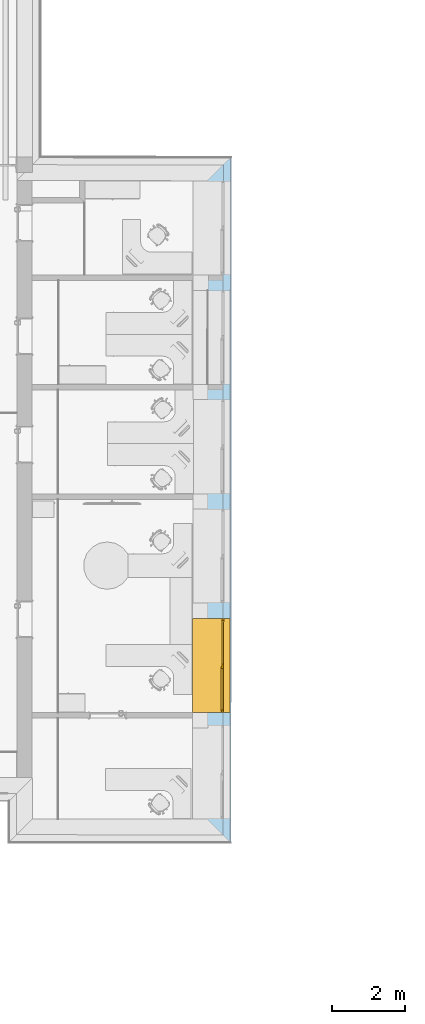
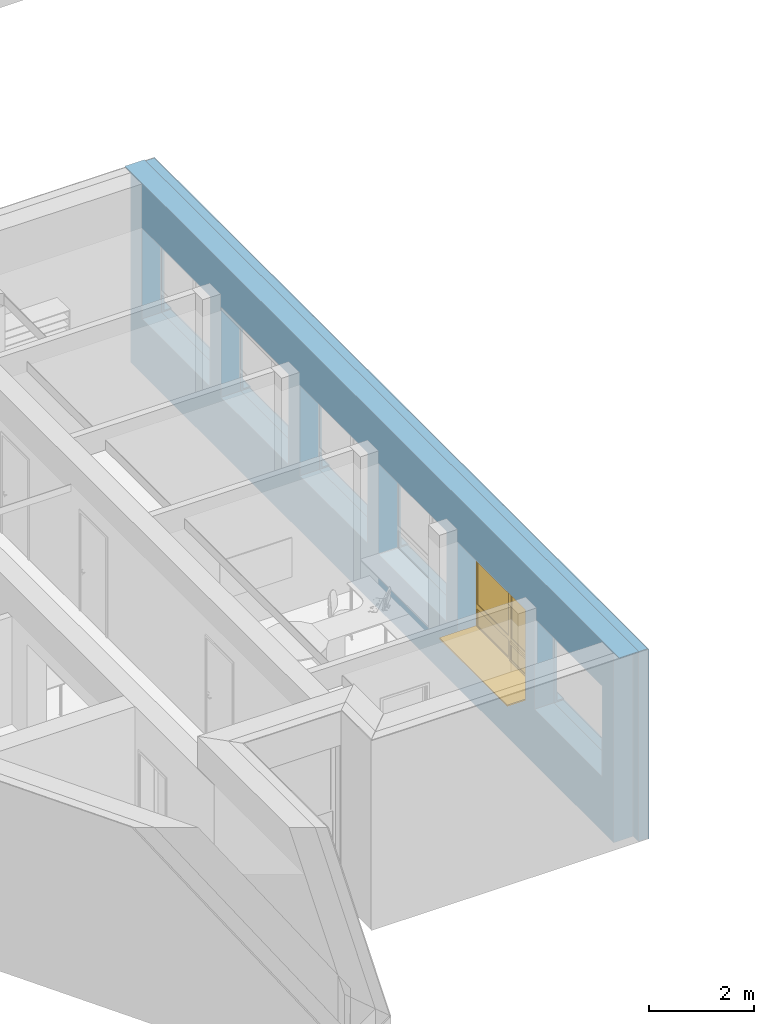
# One storey, part 82 of 194: 1 window, 6 openings, 1 element without a shape of its own, plus 3 elements that do not belong to this part.
"""IFC2X3 building model written with IfcOpenShell, lengths in millimetres."""

from ifc_helpers import new_model, entity, si_unit, converted_unit, derived_unit, money_unit, direction, frame, origin_with_axes, origin_2d_with_axis, place, context, subcontext, project, spatial, polyline, rectangle, outline, extrude, boolean, open_shell, faceted_brep, surface_model, material, type_object, element, fill, aggregate, save


model = new_model("IFC2X3")

# Units and contexts
model_context = context("Model", 3, precision=1e-05, world=origin_with_axes(), true_north=direction((0.0, 1.0)))
body_context = subcontext(model_context, "Body", "Model", "MODEL_VIEW")
ifc_project = project(units=[si_unit("LENGTHUNIT", "METRE", prefix="MILLI"), si_unit("AREAUNIT", "SQUARE_METRE"), si_unit("VOLUMEUNIT", "CUBIC_METRE"), converted_unit("PLANEANGLEUNIT", "DEGREE", entity("IfcPlaneAngleMeasure", 0.0174532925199), si_unit("PLANEANGLEUNIT", "RADIAN"), dimensions=[0, 0, 0, 0, 0, 0, 0]), si_unit("SOLIDANGLEUNIT", "STERADIAN"), money_unit("EUR"), converted_unit("TIMEUNIT", "Year", entity("IfcTimeMeasure", 31556926.0), si_unit("TIMEUNIT", "SECOND"), dimensions=[0, 0, 1, 0, 0, 0, 0]), si_unit("MASSUNIT", "GRAM", prefix="KILO"), si_unit("THERMODYNAMICTEMPERATUREUNIT", "DEGREE_CELSIUS"), si_unit("LUMINOUSINTENSITYUNIT", "LUMEN"), si_unit("ENERGYUNIT", "JOULE", prefix="MEGA"), derived_unit("THERMALCONDUCTANCEUNIT", [(si_unit("POWERUNIT", "WATT"), 1), (si_unit("LENGTHUNIT", "METRE"), -1), (si_unit("THERMODYNAMICTEMPERATUREUNIT", "KELVIN"), -1)]), derived_unit("SPECIFICHEATCAPACITYUNIT", [(si_unit("ENERGYUNIT", "JOULE"), 1), (si_unit("MASSUNIT", "GRAM", prefix="KILO"), -1), (si_unit("THERMODYNAMICTEMPERATUREUNIT", "KELVIN"), -1)]), derived_unit("MASSDENSITYUNIT", [(si_unit("MASSUNIT", "GRAM", prefix="KILO"), 1), (si_unit("VOLUMEUNIT", "CUBIC_METRE"), -1)])], contexts=[model_context])

# Site, building, storey
site_placement = place(None, origin_with_axes())
site = spatial("IfcSite", under=ifc_project, at=site_placement, Name="Site", CompositionType="ELEMENT")
building_placement = place(site_placement, origin_with_axes())
building = spatial("IfcBuilding", under=site, at=building_placement, Name="Building", CompositionType="ELEMENT")
storey_placement = place(building_placement, frame((0.0, 0.0, 3000.0), z_axis=(0.0, 0.0, 1.0), x_axis=(1.0, 0.0, 0.0)))
storey = spatial("IfcBuildingStorey", under=building, at=storey_placement, Name="2 KORRUS", CompositionType="ELEMENT", Elevation=3000.0)

# Window
window_style = type_object("IfcWindowStyle", Name="A2   2\xa0580×2\xa0100", ConstructionType="NOTDEFINED", OperationType="USERDEFINED", ParameterTakesPrecedence=False, Sizeable=False)
wall_placement = place(storey_placement, frame((45388.6906963, 4389.96789684, -420.0), z_axis=(0.0, 0.0, 1.0), x_axis=(0.000555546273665, 0.999999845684, 0.0)))
opening_6_placement = place(wall_placement, frame((4639.9161327, 0.0, 1270.0), z_axis=(0.0, 0.0, 1.0), x_axis=(1.0, 0.0, 0.0)))
window_placement = place(opening_6_placement, frame((-1290.0, 0.0, 0.0), z_axis=(0.0, 0.0, 1.0), x_axis=(1.0, 0.0, 0.0)))
window = element("IfcWindow", 1, at=window_placement, inside=storey, type_object=window_style, Name="välisaken * Double Window 22", OverallHeight=2100.0, OverallWidth=2580.0, context=body_context, shape_type="SurfaceModel", body=[
    faceted_brep([(9.09494701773e-10, -20.0000000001, 30.0), (9.09494701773e-10, -20.0000000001, 5.0), (9.09494701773e-10, -220.0, 5.0), (9.09494701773e-10, -220.0, 19.5184441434), (2580.0, -20.0, 30.0), (2580.0, -20.0, 5.0), (2580.0, -220.0, 5.0), (2580.0, -220.0, 19.5184441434)], [[[0, 1, 2, 3]], [[4, 5, 1, 0]], [[2, 1, 5, 6]], [[3, 2, 6, 7]], [[4, 0, 3, 7]], [[7, 6, 5, 4]]]),
    faceted_brep([(9.09494701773e-10, -20.0000000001, 0.0), (9.09494701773e-10, -220.0, 0.0), (9.09494701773e-10, -220.0, 5.0), (9.09494701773e-10, -20.0000000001, 5.0), (2580.0, -20.0, 0.0), (2580.0, -220.0, 0.0), (2580.0, -220.0, 5.0), (2580.0, -20.0, 5.0)], [[[0, 1, 2, 3]], [[0, 4, 5, 1]], [[1, 5, 6, 2]], [[3, 2, 6, 7]], [[4, 0, 3, 7]], [[5, 4, 7, 6]]]),
    faceted_brep([(2580.0, 29.9999999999, 0.0), (2580.0, 430.0, 0.0), (2580.0, 430.0, 30.0), (2580.0, 29.9999999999, 30.0), (0.0, 30.0, 0.0), (0.0, 430.0, 0.0), (9.09494701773e-10, 830.0, 0.0), (2580.0, 830.0, 0.0), (2580.0, 830.0, 30.0), (9.09494701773e-10, 830.0, 30.0), (0.0, 430.0, 30.0), (0.0, 30.0, 30.0)], [[[0, 1, 2, 3]], [[0, 4, 5, 6, 7, 1]], [[1, 7, 8, 2]], [[3, 2, 8, 9, 10, 11]], [[4, 0, 3, 11]], [[5, 4, 11, 10]], [[6, 5, 10, 9]], [[7, 6, 9, 8]]]),
    faceted_brep([(25.0000000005, 30.0, 50.0), (0.0, 30.0, 50.0), (0.0, 30.0, 2050.0), (49.9999999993, 30.0, 2050.0), (49.9999999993, 30.0, 550.0), (49.9999999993, 30.0, 475.0), (25.0000000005, 30.0, 475.0), (25.0000000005, 4.99999999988, 50.0), (50.0000000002, 5.0, 50.0), (50.0000000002, -20.0000000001, 50.0), (9.09494701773e-10, -20.0000000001, 50.0), (9.09494701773e-10, -20.0000000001, 2050.0), (50.0000000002, -20.0000000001, 2050.0), (50.0000000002, -20.0000000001, 550.0), (50.0000000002, 5.0, 475.0), (50.0000000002, -20.0000000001, 450.0), (50.0000000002, 5.0, 450.0), (25.0000000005, 4.99999999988, 475.0)], [[[0, 1, 2, 3, 4, 5, 6]], [[7, 8, 9, 10, 1, 0]], [[2, 1, 10, 11]], [[3, 2, 11, 12]], [[4, 3, 12, 13]], [[14, 5, 4, 13, 15, 16]], [[14, 17, 6, 5]], [[6, 17, 7, 0]], [[16, 8, 7, 17, 14]], [[16, 15, 9, 8]], [[13, 12, 11, 10, 9, 15]]]),
    faceted_brep([(1265.0, 30.0000000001, 475.0), (1240.0, 30.0, 475.0), (1240.0, 30.0, 550.0), (1240.0, 30.0, 2050.0), (1340.0, 30.0, 2050.0), (1340.0, 30.0, 550.0), (1340.0, 30.0, 450.0), (1340.0, 30.0, 50.0), (1265.0, 30.0000000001, 50.0), (1265.0, 5.0, 475.0), (1240.0, 4.99999999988, 475.0), (1240.0, 4.99999999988, 450.0), (1240.0, -20.0000000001, 450.0), (1240.0, -20.0000000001, 550.0), (1240.0, -20.0000000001, 2050.0), (1340.0, -20.0000000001, 2050.0), (1340.0, -20.0000000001, 550.0), (1340.0, -20.0000000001, 450.0), (1340.0, -20.0000000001, 50.0), (1265.0, 5.0, 50.0), (1240.0, -20.0000000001, 50.0), (1240.0, 4.99999999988, 50.0)], [[[0, 1, 2, 3, 4, 5, 6, 7, 8]], [[0, 9, 10, 1]], [[10, 11, 12, 13, 2, 1]], [[3, 2, 13, 14]], [[4, 3, 14, 15]], [[5, 4, 15, 16]], [[6, 5, 16, 17]], [[7, 6, 17, 18]], [[19, 8, 7, 18, 20, 21]], [[8, 19, 9, 0]], [[21, 11, 10, 9, 19]], [[21, 20, 12, 11]], [[12, 20, 18, 17, 16, 15, 14, 13]]]),
    faceted_brep([(49.9999999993, 30.0, 475.0), (49.9999999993, 30.0, 550.0), (1240.0, 30.0, 550.0), (1240.0, 30.0, 475.0), (50.0000000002, 5.0, 475.0), (50.0000000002, 5.0, 450.0), (50.0000000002, -20.0000000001, 450.0), (50.0000000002, -20.0000000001, 550.0), (1240.0, -20.0000000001, 550.0), (1240.0, 4.99999999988, 475.0), (1240.0, -20.0000000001, 450.0), (1240.0, 4.99999999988, 450.0)], [[[0, 1, 2, 3]], [[4, 5, 6, 7, 1, 0]], [[2, 1, 7, 8]], [[9, 3, 2, 8, 10, 11]], [[9, 4, 0, 3]], [[11, 5, 4, 9]], [[11, 10, 6, 5]], [[8, 7, 6, 10]]]),
    faceted_brep([(1240.0, 4.99999999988, 50.0), (1240.0, -20.0000000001, 50.0), (1340.0, -20.0000000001, 50.0), (1340.0, 30.0, 50.0), (1265.0, 30.0000000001, 50.0), (1265.0, 5.0, 50.0), (50.0000000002, 5.0, 50.0), (50.0000000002, -20.0000000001, 50.0), (9.09494701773e-10, -20.0000000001, 50.0), (9.09494701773e-10, -20.0000000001, 0.0), (2580.0, -20.0, 0.0), (2580.0, -20.0, 50.0), (2530.0, -20.0000000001, 50.0), (2530.0, 29.9999999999, 50.0), (25.0000000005, 30.0, 25.0), (1265.0, 30.0000000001, 25.0), (2580.0, 29.9999999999, 50.0), (2580.0, 29.9999999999, 0.0), (0.0, 30.0, 0.0), (0.0, 30.0, 50.0), (25.0000000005, 30.0, 50.0), (1265.0, 5.0, 25.0), (25.0000000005, 4.99999999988, 25.0), (25.0000000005, 4.99999999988, 50.0)], [[[0, 1, 2, 3, 4, 5]], [[6, 7, 1, 0]], [[8, 9, 10, 11, 12, 2, 1, 7]], [[13, 3, 2, 12]], [[14, 15, 4, 3, 13, 16, 17, 18, 19, 20]], [[15, 21, 5, 4]], [[5, 21, 22, 23, 6, 0]], [[23, 20, 19, 8, 7, 6]], [[19, 18, 9, 8]], [[18, 17, 10, 9]], [[17, 16, 11, 10]], [[16, 13, 12, 11]], [[14, 22, 21, 15]], [[23, 22, 14, 20]]]),
    faceted_brep([(2530.0, -20.0000000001, 50.0), (2530.0, 29.9999999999, 50.0), (2580.0, 29.9999999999, 50.0), (2580.0, -20.0, 50.0), (2530.0, -20.0000000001, 450.0), (2530.0, 29.9999999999, 450.0), (2530.0, 29.9999999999, 550.0), (2530.0, 29.9999999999, 2050.0), (2580.0, 29.9999999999, 2050.0), (2580.0, -20.0, 2050.0), (2530.0, -20.0000000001, 2050.0), (2530.0, -20.0000000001, 550.0)], [[[0, 1, 2, 3]], [[4, 5, 1, 0]], [[1, 5, 6, 7, 8, 2]], [[3, 2, 8, 9]], [[0, 3, 9, 10, 11, 4]], [[11, 6, 5, 4]], [[10, 7, 6, 11]], [[9, 8, 7, 10]]]),
    faceted_brep([(1340.0, -20.0000000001, 550.0), (1340.0, 30.0, 550.0), (1340.0, 30.0, 450.0), (1340.0, -20.0000000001, 450.0), (2530.0, -20.0000000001, 550.0), (2530.0, 29.9999999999, 550.0), (2530.0, 29.9999999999, 450.0), (2530.0, -20.0000000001, 450.0)], [[[0, 1, 2, 3]], [[4, 5, 1, 0]], [[1, 5, 6, 2]], [[3, 2, 6, 7]], [[0, 3, 7, 4]], [[7, 6, 5, 4]]]),
    faceted_brep([(1240.0, -20.0000000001, 2050.0), (1240.0, 30.0, 2050.0), (1340.0, 30.0, 2050.0), (1340.0, -20.0000000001, 2050.0), (50.0000000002, -20.0000000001, 2050.0), (49.9999999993, 30.0, 2050.0), (0.0, 30.0, 2050.0), (0.0, 30.0, 2100.0), (2580.0, 29.9999999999, 2100.0), (2580.0, 29.9999999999, 2050.0), (2530.0, 29.9999999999, 2050.0), (2530.0, -20.0000000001, 2050.0), (2580.0, -20.0, 2050.0), (2580.0, -20.0, 2100.0), (9.09494701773e-10, -20.0000000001, 2100.0), (9.09494701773e-10, -20.0000000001, 2050.0)], [[[0, 1, 2, 3]], [[4, 5, 1, 0]], [[1, 5, 6, 7, 8, 9, 10, 2]], [[3, 2, 10, 11]], [[0, 3, 11, 12, 13, 14, 15, 4]], [[15, 6, 5, 4]], [[14, 7, 6, 15]], [[13, 8, 7, 14]], [[12, 9, 8, 13]], [[11, 10, 9, 12]]]),
    surface_model("IfcShellBasedSurfaceModel", [(50.0000000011, -5.0, 550.0), (1240.0, -5.0, 550.0), (1240.0, -5.0, 2050.0), (50.0000000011, -5.0, 2050.0)], [open_shell([[[0, 1, 2, 3]]])]),
    surface_model("IfcShellBasedSurfaceModel", [(50.0000000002, 15.0, 550.0), (50.0000000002, 15.0, 2050.0), (1240.0, 15.0, 2050.0), (1240.0, 15.0, 550.0)], [open_shell([[[0, 1, 2, 3]]])]),
    surface_model("IfcShellBasedSurfaceModel", [(1340.0, -5.00000000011, 550.0), (2530.0, -5.0, 550.0), (2530.0, -5.0, 2050.0), (1340.0, -5.00000000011, 2050.0)], [open_shell([[[0, 1, 2, 3]]])]),
    surface_model("IfcShellBasedSurfaceModel", [(1340.0, 14.9999999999, 550.0), (1340.0, 14.9999999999, 2050.0), (2530.0, 15.0, 2050.0), (2530.0, 15.0, 550.0)], [open_shell([[[0, 1, 2, 3]]])]),
    faceted_brep([(74.9999999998, 5.0, 425.0), (74.9999999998, 54.9999999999, 425.0), (25.0000000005, 54.9999999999, 425.0), (25.0000000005, 4.99999999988, 425.0), (74.9999999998, 5.0, 75.0), (74.9999999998, 54.9999999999, 75.0), (25.0000000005, 54.9999999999, 75.0), (25.0000000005, 4.99999999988, 75.0)], [[[0, 1, 2, 3]], [[4, 5, 1, 0]], [[1, 5, 6, 2]], [[3, 2, 6, 7]], [[0, 3, 7, 4]], [[7, 6, 5, 4]]]),
    faceted_brep([(1215.0, 4.99999999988, 75.0), (1215.0, 54.9999999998, 75.0), (1265.0, 54.9999999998, 75.0), (1265.0, 5.0, 75.0), (1215.0, 4.99999999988, 425.0), (1215.0, 54.9999999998, 425.0), (1265.0, 54.9999999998, 425.0), (1265.0, 5.0, 425.0)], [[[0, 1, 2, 3]], [[4, 5, 1, 0]], [[1, 5, 6, 2]], [[3, 2, 6, 7]], [[0, 3, 7, 4]], [[7, 6, 5, 4]]]),
    faceted_brep([(1265.0, 5.0, 25.0), (1265.0, 54.9999999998, 25.0), (1265.0, 54.9999999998, 75.0), (1265.0, 5.0, 75.0), (25.0000000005, 4.99999999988, 25.0), (25.0000000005, 54.9999999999, 25.0), (25.0000000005, 54.9999999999, 75.0), (74.9999999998, 54.9999999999, 75.0), (1215.0, 54.9999999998, 75.0), (1215.0, 4.99999999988, 75.0), (74.9999999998, 5.0, 75.0), (25.0000000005, 4.99999999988, 75.0)], [[[0, 1, 2, 3]], [[4, 5, 1, 0]], [[1, 5, 6, 7, 8, 2]], [[3, 2, 8, 9]], [[0, 3, 9, 10, 11, 4]], [[11, 6, 5, 4]], [[10, 7, 6, 11]], [[9, 8, 7, 10]]]),
    faceted_brep([(25.0000000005, 4.99999999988, 475.0), (25.0000000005, 54.9999999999, 475.0), (25.0000000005, 54.9999999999, 425.0), (25.0000000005, 4.99999999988, 425.0), (1265.0, 5.0, 475.0), (1265.0, 54.9999999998, 475.0), (1265.0, 54.9999999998, 425.0), (1215.0, 54.9999999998, 425.0), (74.9999999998, 54.9999999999, 425.0), (74.9999999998, 5.0, 425.0), (1215.0, 4.99999999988, 425.0), (1265.0, 5.0, 425.0)], [[[0, 1, 2, 3]], [[4, 5, 1, 0]], [[1, 5, 6, 7, 8, 2]], [[3, 2, 8, 9]], [[0, 3, 9, 10, 11, 4]], [[11, 6, 5, 4]], [[10, 7, 6, 11]], [[9, 8, 7, 10]]]),
    surface_model("IfcShellBasedSurfaceModel", [(75.0000000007, 20.0, 75.0), (1215.0, 20.0, 75.0), (1215.0, 20.0, 425.0), (75.0000000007, 20.0, 425.0)], [open_shell([[[0, 1, 2, 3]]])]),
    surface_model("IfcShellBasedSurfaceModel", [(75.0000000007, 39.9999999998, 75.0), (75.0000000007, 39.9999999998, 425.0), (1215.0, 40.0, 425.0), (1215.0, 40.0, 75.0)], [open_shell([[[0, 1, 2, 3]]])]),
    surface_model("IfcShellBasedSurfaceModel", [(1340.0, -5.00000000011, 50.0), (2530.0, -5.0, 50.0), (2530.0, -5.0, 450.0), (1340.0, -5.00000000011, 450.0)], [open_shell([[[0, 1, 2, 3]]])]),
    surface_model("IfcShellBasedSurfaceModel", [(1340.0, 14.9999999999, 50.0), (1340.0, 14.9999999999, 450.0), (2530.0, 15.0, 450.0), (2530.0, 15.0, 50.0)], [open_shell([[[0, 1, 2, 3]]])]),
])

# Wall, openings
wall_type = type_object("IfcWallType", Name="VS4", PredefinedType="NOTDEFINED")
wall = element("IfcWall", 2, at=wall_placement, inside=storey, type_object=wall_type, Name="VS4")
opening_1_placement = place(wall_placement, frame((1719.99240846, 0.0, 1270.0), z_axis=(0.0, 0.0, 1.0), x_axis=(1.0, 0.0, 0.0)))
element("IfcOpeningElement", 3, at=opening_1_placement, cuts=wall, Name="välisaken * Double Window 22", context=body_context, shape_type="SweptSolid", body=[
    extrude(rectangle(XDim=2580.0, YDim=2100.0, at=origin_2d_with_axis()), frame((9.09494701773e-10, -20.0, 1050.0), z_axis=(0.0, -1.0, 0.0), x_axis=(1.0, 0.0, 0.0)), (0.0, 0.0, -1.0), 1100.0),
    extrude(rectangle(XDim=2580.0, YDim=2100.0, at=origin_2d_with_axis()), frame((9.09494701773e-10, -20.0000000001, 1050.0), z_axis=(0.0, 1.0, 0.0), x_axis=(1.0, 0.0, 0.0)), (0.0, 0.0, -1.0), 850.0),
])
opening_2_placement = place(wall_placement, frame((7639.96095485, 0.0, 1270.0), z_axis=(0.0, 0.0, 1.0), x_axis=(1.0, 0.0, 0.0)))
element("IfcOpeningElement", 4, at=opening_2_placement, cuts=wall, Name="välisaken * Double Window 22", context=body_context, shape_type="SweptSolid", body=[
    extrude(rectangle(XDim=2580.0, YDim=2100.0, at=origin_2d_with_axis()), frame((9.09494701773e-10, -19.9999999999, 1050.0), z_axis=(0.0, -1.0, 0.0), x_axis=(1.0, 0.0, 0.0)), (0.0, 0.0, -1.0), 1100.0),
    extrude(rectangle(XDim=2580.0, YDim=2100.0, at=origin_2d_with_axis()), frame((9.09494701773e-10, -20.0, 1050.0), z_axis=(0.0, 1.0, 0.0), x_axis=(1.0, 0.0, 0.0)), (0.0, 0.0, -1.0), 850.0),
])
opening_3_placement = place(wall_placement, frame((10639.9002006, -1.13686837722e-10, 1270.0), z_axis=(0.0, 0.0, 1.0), x_axis=(1.0, 0.0, 0.0)))
element("IfcOpeningElement", 5, at=opening_3_placement, cuts=wall, Name="välisaken * Double Window 22", context=body_context, shape_type="SweptSolid", body=[
    extrude(rectangle(XDim=2580.0, YDim=2100.0, at=origin_2d_with_axis()), frame((9.09494701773e-10, -19.9999999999, 1050.0), z_axis=(0.0, -1.0, 0.0), x_axis=(1.0, 0.0, 0.0)), (0.0, 0.0, -1.0), 1100.0),
    extrude(rectangle(XDim=2580.0, YDim=2100.0, at=origin_2d_with_axis()), frame((0.0, -20.0, 1050.0), z_axis=(0.0, 1.0, 0.0), x_axis=(1.0, 0.0, 0.0)), (0.0, 0.0, -1.0), 850.0),
])
opening_4_placement = place(wall_placement, frame((13639.8047206, -1.13686837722e-10, 1270.0), z_axis=(0.0, 0.0, 1.0), x_axis=(1.0, 0.0, 0.0)))
element("IfcOpeningElement", 6, at=opening_4_placement, cuts=wall, Name="välisaken * Double Window 22", context=body_context, shape_type="SweptSolid", body=[
    extrude(rectangle(XDim=2580.0, YDim=2100.0, at=origin_2d_with_axis()), frame((9.09494701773e-10, -19.9999999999, 1050.0), z_axis=(0.0, -1.0, 0.0), x_axis=(1.0, 0.0, 0.0)), (0.0, 0.0, -1.0), 1100.0),
    extrude(rectangle(XDim=2580.0, YDim=2100.0, at=origin_2d_with_axis()), frame((1.81898940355e-09, -20.0, 1050.0), z_axis=(0.0, 1.0, 0.0), x_axis=(1.0, 0.0, 0.0)), (0.0, 0.0, -1.0), 850.0),
])
opening_5_placement = place(wall_placement, frame((16639.9800092, 0.0, 1270.0), z_axis=(0.0, 0.0, 1.0), x_axis=(1.0, 0.0, 0.0)))
element("IfcOpeningElement", 7, at=opening_5_placement, cuts=wall, Name="välisaken * Double Window 22", context=body_context, shape_type="SweptSolid", body=[
    extrude(rectangle(XDim=2580.0, YDim=2100.0, at=origin_2d_with_axis()), frame((0.0, -20.0000000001, 1050.0), z_axis=(0.0, -1.0, 0.0), x_axis=(1.0, 0.0, 0.0)), (0.0, 0.0, -1.0), 1100.0),
    extrude(rectangle(XDim=2580.0, YDim=2100.0, at=origin_2d_with_axis()), frame((0.0, -20.0000000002, 1050.0), z_axis=(0.0, 1.0, 0.0), x_axis=(1.0, 0.0, 0.0)), (0.0, 0.0, -1.0), 850.0),
])
opening_6 = element("IfcOpeningElement", 8, at=opening_6_placement, cuts=wall, Name="välisaken * Double Window 22", context=body_context, shape_type="SweptSolid", body=[
    extrude(rectangle(XDim=2580.0, YDim=2100.0, at=origin_2d_with_axis()), frame((9.09494701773e-10, -20.0, 1050.0), z_axis=(0.0, -1.0, 0.0), x_axis=(1.0, 0.0, 0.0)), (0.0, 0.0, -1.0), 1100.0),
    extrude(rectangle(XDim=2580.0, YDim=2100.0, at=origin_2d_with_axis()), frame((9.09494701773e-10, -20.0000000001, 1050.0), z_axis=(0.0, 1.0, 0.0), x_axis=(1.0, 0.0, 0.0)), (0.0, 0.0, -1.0), 850.0),
])

fill(opening_6, window)

# Building element part
ifc_material_1 = material(Name="Tellis - Konstuktsioon")
building_element_part_1_placement = place(wall_placement, origin_with_axes())
building_element_part_1 = element("IfcBuildingElementPart", 9, at=building_element_part_1_placement, material=ifc_material_1, Name="Tellis - Konstuktsioon", context=body_context, shape_type="CSG", body=[
    boolean("DIFFERENCE", boolean("DIFFERENCE", boolean("DIFFERENCE", boolean("DIFFERENCE", boolean("DIFFERENCE", boolean("DIFFERENCE", extrude(outline(polyline([(-220.007591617, 0.0), (18579.9522338, 0.0), (18579.9522338, 430.0), (-220.007591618, 430.0), (-220.007591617, 0.0)])), origin_with_axes(), (0.0, 0.0, 1.0), 4420.0), faceted_brep([(0.0, 0.0, 4400.0), (-220.000000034, -1.13686837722e-10, 4400.0), (-220.007591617, 0.0, 0.0), (0.0, 1.13686837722e-10, 0.0), (-0.00759158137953, 430.0, 4400.0), (-220.007591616, 430.0, 4400.0), (-220.007591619, 430.0, 0.0), (-0.00759158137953, 430.0, 0.0)], [[[0, 1, 2, 3]], [[1, 0, 4, 5]], [[1, 5, 6, 2]], [[7, 3, 2, 6]], [[0, 3, 7, 4]], [[4, 7, 6, 5]]])), faceted_brep([(18579.9522338, 430.0, 4420.0), (18579.0005259, 0.0, 4420.0), (18579.9522338, 0.0, 4420.0), (18579.0005263, -9.09494701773e-10, 4400.0), (18579.9522348, 429.999999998, 4400.0), (18358.9999871, -2.27373675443e-10, 4400.0), (18358.9999871, -1.13686837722e-10, 0.0), (18579.9522338, 0.0, 0.0), (18579.9522338, 430.0, 0.0), (18359.951695, 430.0, 4400.0), (18359.951695, 430.0, 0.0)], [[[0, 1, 2]], [[3, 1, 0, 4]], [[5, 6, 7, 2, 1, 3]], [[4, 0, 2, 7, 8]], [[5, 3, 4, 9]], [[6, 5, 9, 10]], [[6, 10, 8, 7]], [[9, 4, 8, 10]]])), faceted_brep([(0.111082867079, -200.0, 1300.0), (18196.9295608, -200.0, 1300.0), (18196.9295608, -200.0, 3400.0), (0.111082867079, -200.0, 3400.0), (0.0345998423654, -62.3282756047, 1300.0), (18196.8474617, -52.2191024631, 1300.0), (18196.8474617, -52.2191024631, 3400.0), (0.0345998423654, -62.3282756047, 3400.0)], [[[0, 1, 2, 3]], [[1, 0, 4, 5]], [[2, 1, 5, 6]], [[3, 2, 6, 7]], [[0, 3, 7, 4]], [[5, 4, 7, 6]]])), faceted_brep([(-199.996469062, -200.0, 0.0), (-199.996469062, -200.0, 4400.0), (18558.5578221, -200.0, 4400.0), (18558.5578221, -200.0, 0.0), (18579.9522338, -200.0, 0.0), (18579.9522338, -200.0, 4420.0), (-220.007591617, -200.0, 4420.0), (-220.007591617, -200.0, 0.0), (-200.000000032, 0.0, 0.0), (-200.000000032, -1.13686837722e-10, 4400.0), (18358.9999871, -2.27373675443e-10, 4400.0), (18559.0004769, 0.0, 4400.0), (18559.0004769, 0.0, 0.0), (18579.9522338, 0.0, 0.0), (18579.9522338, 0.0, 4420.0), (-220.007591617, 0.0, 4420.0), (-220.007591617, 0.0, 0.0)], [[[0, 1, 2, 3, 4, 5, 6, 7]], [[1, 0, 8, 9]], [[10, 11, 2, 1, 9]], [[3, 2, 11, 12]], [[3, 12, 13, 4]], [[5, 4, 13, 14]], [[15, 6, 5, 14]], [[15, 16, 7, 6]], [[8, 0, 7, 16]], [[9, 8, 16, 15, 14, 13, 12, 11, 10]]])), faceted_brep([(0.111082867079, -200.0, 1300.0), (0.111082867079, -200.0, 3400.0), (18196.9295608, -200.0, 3400.0), (18196.9295608, -200.0, 1300.0), (0.122193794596, -220.0, 1300.0), (0.122193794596, -220.0, 3400.0), (18196.9406717, -220.0, 3400.0), (18196.9406717, -220.0, 1300.0)], [[[0, 1, 2, 3]], [[4, 5, 1, 0]], [[5, 6, 2, 1]], [[6, 7, 3, 2]], [[7, 4, 0, 3]], [[4, 7, 6, 5]]])), faceted_brep([(-219.996115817, -220.0, 4400.0), (18558.5135566, -220.0, 4400.0), (18578.5136056, -220.0, 4400.0), (18578.5136056, -220.0, 0.0), (18579.9522338, -220.0, 0.0), (18579.9522338, -220.0, 4420.0), (-220.007591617, -220.0, 4420.0), (-220.007591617, -220.0, 0.0), (-219.996115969, -220.0, 0.0), (-219.996468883, -200.0, 4400.0), (18558.5578221, -200.0, 4400.0), (18578.5578711, -200.0, 4400.0), (18578.5578711, -200.0, 0.0), (18579.9522338, -200.0, 0.0), (18579.9522338, -200.0, 4420.0), (-220.007591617, -200.0, 4420.0), (-220.007591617, -200.0, 0.0), (-219.996469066, -200.0, 0.0)], [[[0, 1, 2, 3, 4, 5, 6, 7, 8]], [[2, 1, 0, 9, 10, 11]], [[3, 2, 11, 12]], [[3, 12, 13, 4]], [[5, 4, 13, 14]], [[15, 6, 5, 14]], [[15, 16, 7, 6]], [[17, 8, 7, 16]], [[0, 8, 17, 9]], [[9, 17, 16, 15, 14, 13, 12, 11, 10]]])),
])

ifc_material_2 = material(Name="Soojustus - Plastik Kõva")
building_element_part_2_placement = place(wall_placement, origin_with_axes())
building_element_part_2 = element("IfcBuildingElementPart", 10, at=building_element_part_2_placement, material=ifc_material_2, Name="Soojustus - Plastik Kõva", context=body_context, shape_type="CSG", body=[
    boolean("DIFFERENCE", boolean("DIFFERENCE", boolean("DIFFERENCE", boolean("DIFFERENCE", boolean("DIFFERENCE", boolean("DIFFERENCE", extrude(outline(polyline([(-220.007591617, -200.0), (18579.9522338, -200.0), (18579.9522338, 0.0), (-220.007591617, 0.0), (-220.007591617, -200.0)])), origin_with_axes(), (0.0, 0.0, 1.0), 4420.0), faceted_brep([(0.0, 0.0, 4400.0), (-220.000000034, -1.13686837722e-10, 4400.0), (-220.007591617, 0.0, 0.0), (0.0, 1.13686837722e-10, 0.0), (-0.00759158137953, 430.0, 4400.0), (-220.007591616, 430.0, 4400.0), (-220.007591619, 430.0, 0.0), (-0.00759158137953, 430.0, 0.0)], [[[0, 1, 2, 3]], [[1, 0, 4, 5]], [[1, 5, 6, 2]], [[7, 3, 2, 6]], [[0, 3, 7, 4]], [[4, 7, 6, 5]]])), faceted_brep([(18579.9522338, 430.0, 4420.0), (18579.0005259, 0.0, 4420.0), (18579.9522338, 0.0, 4420.0), (18579.0005263, -9.09494701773e-10, 4400.0), (18579.9522348, 429.999999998, 4400.0), (18358.9999871, -2.27373675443e-10, 4400.0), (18358.9999871, -1.13686837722e-10, 0.0), (18579.9522338, 0.0, 0.0), (18579.9522338, 430.0, 0.0), (18359.951695, 430.0, 4400.0), (18359.951695, 430.0, 0.0)], [[[0, 1, 2]], [[3, 1, 0, 4]], [[5, 6, 7, 2, 1, 3]], [[4, 0, 2, 7, 8]], [[5, 3, 4, 9]], [[6, 5, 9, 10]], [[6, 10, 8, 7]], [[9, 4, 8, 10]]])), faceted_brep([(0.111082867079, -200.0, 1300.0), (18196.9295608, -200.0, 1300.0), (18196.9295608, -200.0, 3400.0), (0.111082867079, -200.0, 3400.0), (0.0345998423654, -62.3282756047, 1300.0), (18196.8474617, -52.2191024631, 1300.0), (18196.8474617, -52.2191024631, 3400.0), (0.0345998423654, -62.3282756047, 3400.0)], [[[0, 1, 2, 3]], [[1, 0, 4, 5]], [[2, 1, 5, 6]], [[3, 2, 6, 7]], [[0, 3, 7, 4]], [[5, 4, 7, 6]]])), faceted_brep([(-199.996469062, -200.0, 0.0), (-199.996469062, -200.0, 4400.0), (18558.5578221, -200.0, 4400.0), (18558.5578221, -200.0, 0.0), (18579.9522338, -200.0, 0.0), (18579.9522338, -200.0, 4420.0), (-220.007591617, -200.0, 4420.0), (-220.007591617, -200.0, 0.0), (-200.000000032, 0.0, 0.0), (-200.000000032, -1.13686837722e-10, 4400.0), (18358.9999871, -2.27373675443e-10, 4400.0), (18559.0004769, 0.0, 4400.0), (18559.0004769, 0.0, 0.0), (18579.9522338, 0.0, 0.0), (18579.9522338, 0.0, 4420.0), (-220.007591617, 0.0, 4420.0), (-220.007591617, 0.0, 0.0)], [[[0, 1, 2, 3, 4, 5, 6, 7]], [[1, 0, 8, 9]], [[10, 11, 2, 1, 9]], [[3, 2, 11, 12]], [[3, 12, 13, 4]], [[5, 4, 13, 14]], [[15, 6, 5, 14]], [[15, 16, 7, 6]], [[8, 0, 7, 16]], [[9, 8, 16, 15, 14, 13, 12, 11, 10]]])), faceted_brep([(0.111082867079, -200.0, 1300.0), (0.111082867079, -200.0, 3400.0), (18196.9295608, -200.0, 3400.0), (18196.9295608, -200.0, 1300.0), (0.122193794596, -220.0, 1300.0), (0.122193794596, -220.0, 3400.0), (18196.9406717, -220.0, 3400.0), (18196.9406717, -220.0, 1300.0)], [[[0, 1, 2, 3]], [[4, 5, 1, 0]], [[5, 6, 2, 1]], [[6, 7, 3, 2]], [[7, 4, 0, 3]], [[4, 7, 6, 5]]])), faceted_brep([(-219.996115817, -220.0, 4400.0), (18558.5135566, -220.0, 4400.0), (18578.5136056, -220.0, 4400.0), (18578.5136056, -220.0, 0.0), (18579.9522338, -220.0, 0.0), (18579.9522338, -220.0, 4420.0), (-220.007591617, -220.0, 4420.0), (-220.007591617, -220.0, 0.0), (-219.996115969, -220.0, 0.0), (-219.996468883, -200.0, 4400.0), (18558.5578221, -200.0, 4400.0), (18578.5578711, -200.0, 4400.0), (18578.5578711, -200.0, 0.0), (18579.9522338, -200.0, 0.0), (18579.9522338, -200.0, 4420.0), (-220.007591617, -200.0, 4420.0), (-220.007591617, -200.0, 0.0), (-219.996469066, -200.0, 0.0)], [[[0, 1, 2, 3, 4, 5, 6, 7, 8]], [[2, 1, 0, 9, 10, 11]], [[3, 2, 11, 12]], [[3, 12, 13, 4]], [[5, 4, 13, 14]], [[15, 6, 5, 14]], [[15, 16, 7, 6]], [[17, 8, 7, 16]], [[0, 8, 17, 9]], [[9, 17, 16, 15, 14, 13, 12, 11, 10]]])),
])

ifc_material_3 = material(Name="Tellis - Viimistlus")
building_element_part_3_placement = place(wall_placement, origin_with_axes())
building_element_part_3 = element("IfcBuildingElementPart", 11, at=building_element_part_3_placement, material=ifc_material_3, Name="Tellis - Viimistlus", context=body_context, shape_type="CSG", body=[
    boolean("DIFFERENCE", boolean("DIFFERENCE", boolean("DIFFERENCE", boolean("DIFFERENCE", boolean("DIFFERENCE", boolean("DIFFERENCE", extrude(outline(polyline([(-220.007591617, -220.0), (18579.9522338, -220.0), (18579.9522338, -200.0), (-220.007591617, -200.0), (-220.007591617, -220.0)])), origin_with_axes(), (0.0, 0.0, 1.0), 4420.0), faceted_brep([(0.0, 0.0, 4400.0), (-220.000000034, -1.13686837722e-10, 4400.0), (-220.007591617, 0.0, 0.0), (0.0, 1.13686837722e-10, 0.0), (-0.00759158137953, 430.0, 4400.0), (-220.007591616, 430.0, 4400.0), (-220.007591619, 430.0, 0.0), (-0.00759158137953, 430.0, 0.0)], [[[0, 1, 2, 3]], [[1, 0, 4, 5]], [[1, 5, 6, 2]], [[7, 3, 2, 6]], [[0, 3, 7, 4]], [[4, 7, 6, 5]]])), faceted_brep([(18579.9522338, 430.0, 4420.0), (18579.0005259, 0.0, 4420.0), (18579.9522338, 0.0, 4420.0), (18579.0005263, -9.09494701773e-10, 4400.0), (18579.9522348, 429.999999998, 4400.0), (18358.9999871, -2.27373675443e-10, 4400.0), (18358.9999871, -1.13686837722e-10, 0.0), (18579.9522338, 0.0, 0.0), (18579.9522338, 430.0, 0.0), (18359.951695, 430.0, 4400.0), (18359.951695, 430.0, 0.0)], [[[0, 1, 2]], [[3, 1, 0, 4]], [[5, 6, 7, 2, 1, 3]], [[4, 0, 2, 7, 8]], [[5, 3, 4, 9]], [[6, 5, 9, 10]], [[6, 10, 8, 7]], [[9, 4, 8, 10]]])), faceted_brep([(0.111082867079, -200.0, 1300.0), (18196.9295608, -200.0, 1300.0), (18196.9295608, -200.0, 3400.0), (0.111082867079, -200.0, 3400.0), (0.0345998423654, -62.3282756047, 1300.0), (18196.8474617, -52.2191024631, 1300.0), (18196.8474617, -52.2191024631, 3400.0), (0.0345998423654, -62.3282756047, 3400.0)], [[[0, 1, 2, 3]], [[1, 0, 4, 5]], [[2, 1, 5, 6]], [[3, 2, 6, 7]], [[0, 3, 7, 4]], [[5, 4, 7, 6]]])), faceted_brep([(-199.996469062, -200.0, 0.0), (-199.996469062, -200.0, 4400.0), (18558.5578221, -200.0, 4400.0), (18558.5578221, -200.0, 0.0), (18579.9522338, -200.0, 0.0), (18579.9522338, -200.0, 4420.0), (-220.007591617, -200.0, 4420.0), (-220.007591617, -200.0, 0.0), (-200.000000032, 0.0, 0.0), (-200.000000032, -1.13686837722e-10, 4400.0), (18358.9999871, -2.27373675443e-10, 4400.0), (18559.0004769, 0.0, 4400.0), (18559.0004769, 0.0, 0.0), (18579.9522338, 0.0, 0.0), (18579.9522338, 0.0, 4420.0), (-220.007591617, 0.0, 4420.0), (-220.007591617, 0.0, 0.0)], [[[0, 1, 2, 3, 4, 5, 6, 7]], [[1, 0, 8, 9]], [[10, 11, 2, 1, 9]], [[3, 2, 11, 12]], [[3, 12, 13, 4]], [[5, 4, 13, 14]], [[15, 6, 5, 14]], [[15, 16, 7, 6]], [[8, 0, 7, 16]], [[9, 8, 16, 15, 14, 13, 12, 11, 10]]])), faceted_brep([(0.111082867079, -200.0, 1300.0), (0.111082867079, -200.0, 3400.0), (18196.9295608, -200.0, 3400.0), (18196.9295608, -200.0, 1300.0), (0.122193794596, -220.0, 1300.0), (0.122193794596, -220.0, 3400.0), (18196.9406717, -220.0, 3400.0), (18196.9406717, -220.0, 1300.0)], [[[0, 1, 2, 3]], [[4, 5, 1, 0]], [[5, 6, 2, 1]], [[6, 7, 3, 2]], [[7, 4, 0, 3]], [[4, 7, 6, 5]]])), faceted_brep([(-219.996115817, -220.0, 4400.0), (18558.5135566, -220.0, 4400.0), (18578.5136056, -220.0, 4400.0), (18578.5136056, -220.0, 0.0), (18579.9522338, -220.0, 0.0), (18579.9522338, -220.0, 4420.0), (-220.007591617, -220.0, 4420.0), (-220.007591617, -220.0, 0.0), (-219.996115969, -220.0, 0.0), (-219.996468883, -200.0, 4400.0), (18558.5578221, -200.0, 4400.0), (18578.5578711, -200.0, 4400.0), (18578.5578711, -200.0, 0.0), (18579.9522338, -200.0, 0.0), (18579.9522338, -200.0, 4420.0), (-220.007591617, -200.0, 4420.0), (-220.007591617, -200.0, 0.0), (-219.996469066, -200.0, 0.0)], [[[0, 1, 2, 3, 4, 5, 6, 7, 8]], [[2, 1, 0, 9, 10, 11]], [[3, 2, 11, 12]], [[3, 12, 13, 4]], [[5, 4, 13, 14]], [[15, 6, 5, 14]], [[15, 16, 7, 6]], [[17, 8, 7, 16]], [[0, 8, 17, 9]], [[9, 17, 16, 15, 14, 13, 12, 11, 10]]])),
])

aggregate(wall, [building_element_part_1, building_element_part_2, building_element_part_3])

save(model, "model.ifc")
